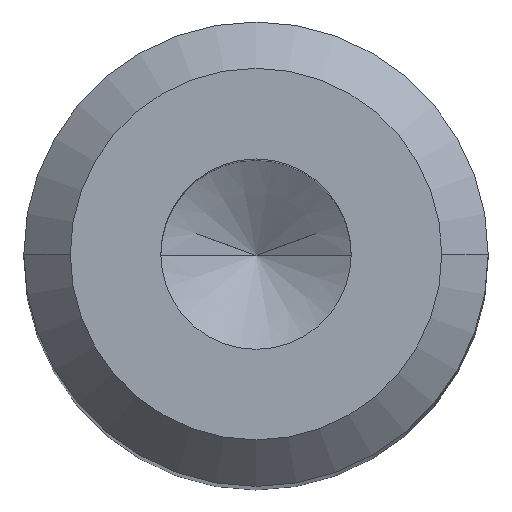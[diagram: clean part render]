
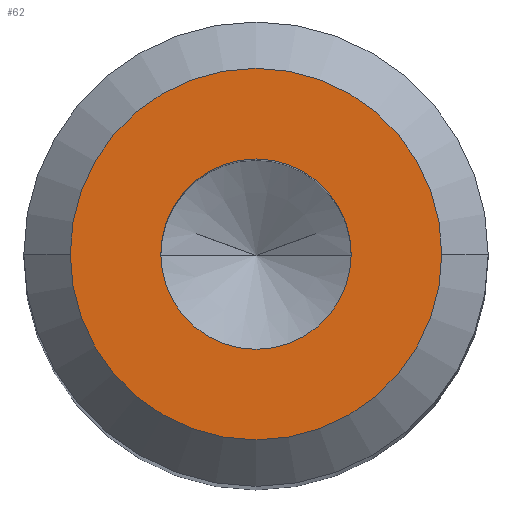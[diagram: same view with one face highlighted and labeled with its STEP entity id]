
A CAD part, top view. The second image highlights one B-rep face of the part: STEP entity #62.
In plain terms, the highlighted planar face has unit normal (0, 0, 1).
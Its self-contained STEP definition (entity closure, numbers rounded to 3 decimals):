
#43=PLANE('',#283);
#46=FACE_BOUND('',#101,.T.);
#47=FACE_BOUND('',#102,.T.);
#62=ADVANCED_FACE('NONE',(#46,#47),#43,.T.);
#101=EDGE_LOOP('',(#156,#157));
#102=EDGE_LOOP('',(#158,#159));
#112=CIRCLE('',#266,2.);
#117=CIRCLE('',#274,1.025);
#120=CIRCLE('',#281,1.025);
#121=CIRCLE('',#282,2.);
#156=ORIENTED_EDGE('',*,*,#221,.F.);
#157=ORIENTED_EDGE('',*,*,#228,.F.);
#158=ORIENTED_EDGE('',*,*,#209,.T.);
#159=ORIENTED_EDGE('',*,*,#229,.T.);
#190=VERTEX_POINT('',#386);
#192=VERTEX_POINT('',#389);
#200=VERTEX_POINT('',#409);
#202=VERTEX_POINT('',#413);
#209=EDGE_CURVE('NONE',#192,#190,#112,.T.);
#221=EDGE_CURVE('NONE',#202,#200,#117,.T.);
#228=EDGE_CURVE('NONE',#200,#202,#120,.T.);
#229=EDGE_CURVE('NONE',#190,#192,#121,.T.);
#266=AXIS2_PLACEMENT_3D('',#388,#306,#307);
#274=AXIS2_PLACEMENT_3D('',#414,#329,#330);
#281=AXIS2_PLACEMENT_3D('',#426,#347,#348);
#282=AXIS2_PLACEMENT_3D('',#427,#349,#350);
#283=AXIS2_PLACEMENT_3D('',#428,#351,#352);
#306=DIRECTION('',(0.,0.,1.));
#307=DIRECTION('',(1.,0.,0.));
#329=DIRECTION('',(0.,0.,1.));
#330=DIRECTION('',(1.,0.,0.));
#347=DIRECTION('',(0.,0.,1.));
#348=DIRECTION('',(1.,0.,0.));
#349=DIRECTION('',(0.,0.,1.));
#350=DIRECTION('',(1.,0.,0.));
#351=DIRECTION('',(0.,0.,1.));
#352=DIRECTION('',(1.,0.,0.));
#386=CARTESIAN_POINT('',(2.,0.,0.));
#388=CARTESIAN_POINT('',(0.,0.,0.));
#389=CARTESIAN_POINT('',(-2.,0.,0.));
#409=CARTESIAN_POINT('',(-1.025,0.,0.));
#413=CARTESIAN_POINT('',(1.025,0.,0.));
#414=CARTESIAN_POINT('',(0.,0.,0.));
#426=CARTESIAN_POINT('',(0.,0.,0.));
#427=CARTESIAN_POINT('',(0.,0.,0.));
#428=CARTESIAN_POINT('',(0.,2.5,0.));
